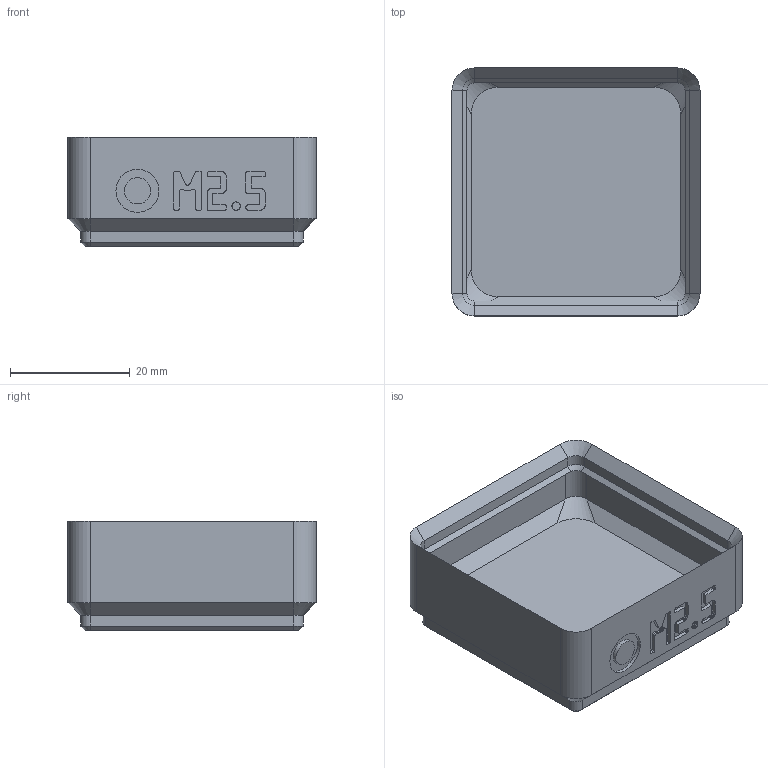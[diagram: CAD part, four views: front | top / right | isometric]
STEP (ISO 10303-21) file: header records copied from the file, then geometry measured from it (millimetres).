
FILE_DESCRIPTION(('Open CASCADE Model'),'2;1');
FILE_NAME('bin_wshr_m2_5','2026-11-03T16:47:37',('Author'),( 'Open CASCADE'),'Open CASCADE STEP processor 8.0','build123d', 'Unknown');
FILE_SCHEMA(('AUTOMOTIVE_DESIGN { 1 0 10303 214 1 1 1 1 }'));
Length unit declared in the file: millimetre
Products named in the file (1): bin_wshr_m2_5
Bounding box: 41.5 x 41.5 x 18.4 mm (x, y, z)
Volume: 10990.4 mm3; surface area: 8293.8 mm2
Topology: 1 solids, 1 shells, 478 faces, 1327 edges, 866 vertices
Faces by surface type: plane 428, cylinder 26, cone 16, bspline 8
Full cylindrical faces by diameter (mm): 3.2 x4, 4.4 x1, 6.5 x4, 7.2 x1
Entity records: 31360 total; most frequent: CARTESIAN_POINT 6364, DIRECTION 4059, LINE 2959, VECTOR 2959, ORIENTED_EDGE 2654, PCURVE 2654, DEFINITIONAL_REPRESENTATION 2654, EDGE_CURVE 1327
